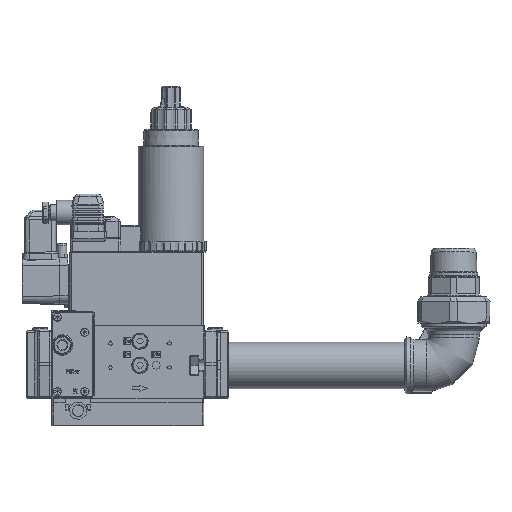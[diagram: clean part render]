
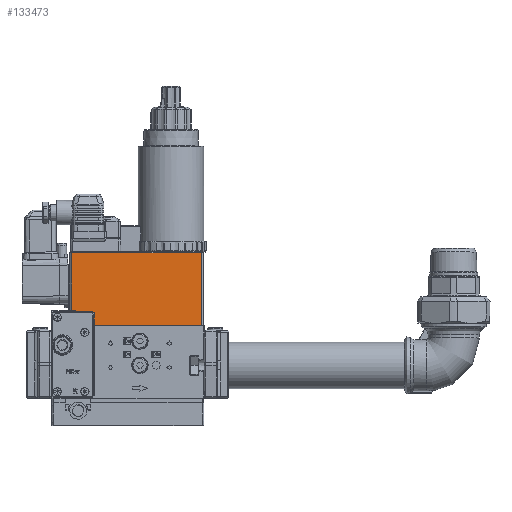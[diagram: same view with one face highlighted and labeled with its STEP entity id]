
A CAD part, top view. The second image highlights one B-rep face of the part: STEP entity #133473.
In plain terms, the highlighted planar face has unit normal (0, 0.009, 1).
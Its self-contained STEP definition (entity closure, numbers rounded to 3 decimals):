
#6720 = DIRECTION ( 'NONE',  ( 1., 0., 0. ) ) ;
#8004 = CARTESIAN_POINT ( 'NONE',  ( -21.322, 6.358, 46.886 ) ) ;
#11049 = B_SPLINE_CURVE_WITH_KNOTS ( 'NONE', 3,
 ( #11094, #48434, #16058, #103198, #93762, #92318 ),
 .UNSPECIFIED., .F., .F.,
 ( 4, 2, 4 ),
 ( 0., 0.001, 0.002 ),
 .UNSPECIFIED. ) ;
#11094 = CARTESIAN_POINT ( 'NONE',  ( -22.322, -51.195, 47.388 ) ) ;
#13156 = AXIS2_PLACEMENT_3D ( 'NONE', #60881, #28580, #105626 ) ;
#16058 = CARTESIAN_POINT ( 'NONE',  ( -21.8, -51.303, 47.389 ) ) ;
#18802 = VERTEX_POINT ( 'NONE', #74482 ) ;
#18943 = EDGE_CURVE ( 'NONE', #117129, #69150, #11049, .T. ) ;
#19848 = VERTEX_POINT ( 'NONE', #68607 ) ;
#20371 = EDGE_LOOP ( 'NONE', ( #110047, #52096, #75278, #55347, #121297, #23995, #58214, #115677, #92547 ) ) ;
#20539 = LINE ( 'NONE', #64398, #95787 ) ;
#23995 = ORIENTED_EDGE ( 'NONE', *, *, #25577, .F. ) ;
#24099 = CARTESIAN_POINT ( 'NONE',  ( -21.322, -64.001, 47.5 ) ) ;
#25577 = EDGE_CURVE ( 'NONE', #124127, #71312, #107524, .T. ) ;
#27150 = FACE_OUTER_BOUND ( 'NONE', #20371, .T. ) ;
#28580 = DIRECTION ( 'NONE',  ( 0., 0.009, 1. ) ) ;
#29712 = CARTESIAN_POINT ( 'NONE',  ( -45.028, -49.801, 47.376 ) ) ;
#35599 = VERTEX_POINT ( 'NONE', #92699 ) ;
#38968 = VECTOR ( 'NONE', #127403, 1000. ) ;
#41114 = CARTESIAN_POINT ( 'NONE',  ( -45.028, -51.195, 47.388 ) ) ;
#41239 = CARTESIAN_POINT ( 'NONE',  ( -38.771, 3.008, 46.915 ) ) ;
#44632 = EDGE_CURVE ( 'NONE', #67195, #35599, #49119, .T. ) ;
#46746 = DIRECTION ( 'NONE',  ( -0.009, 1., -0.009 ) ) ;
#47285 = CARTESIAN_POINT ( 'NONE',  ( 79.337, 3.008, 46.915 ) ) ;
#48386 = VECTOR ( 'NONE', #93003, 1000. ) ;
#48434 = CARTESIAN_POINT ( 'NONE',  ( -22.06, -51.195, 47.388 ) ) ;
#48497 = CARTESIAN_POINT ( 'NONE',  ( -21.322, -52.195, 47.397 ) ) ;
#49022 = VECTOR ( 'NONE', #108082, 1000. ) ;
#49119 = LINE ( 'NONE', #29712, #48386 ) ;
#49449 = EDGE_CURVE ( 'NONE', #69150, #104660, #107351, .T. ) ;
#50139 = PLANE ( 'NONE',  #13156 ) ;
#52096 = ORIENTED_EDGE ( 'NONE', *, *, #18943, .T. ) ;
#52923 = DIRECTION ( 'NONE',  ( 1., 0., 0. ) ) ;
#55347 = ORIENTED_EDGE ( 'NONE', *, *, #132902, .T. ) ;
#58214 = ORIENTED_EDGE ( 'NONE', *, *, #89701, .T. ) ;
#58977 = LINE ( 'NONE', #136056, #67078 ) ;
#60881 = CARTESIAN_POINT ( 'NONE',  ( -45.028, 6.358, 46.886 ) ) ;
#62619 = CARTESIAN_POINT ( 'NONE',  ( -35.136, -51.195, 47.388 ) ) ;
#64314 = DIRECTION ( 'NONE',  ( -0.006, -1., 0.009 ) ) ;
#64398 = CARTESIAN_POINT ( 'NONE',  ( -45.028, -64.001, 47.5 ) ) ;
#67078 = VECTOR ( 'NONE', #46746, 1000. ) ;
#67195 = VERTEX_POINT ( 'NONE', #117378 ) ;
#68607 = CARTESIAN_POINT ( 'NONE',  ( -35.136, -51.195, 47.388 ) ) ;
#69150 = VERTEX_POINT ( 'NONE', #48497 ) ;
#71312 = VERTEX_POINT ( 'NONE', #47285 ) ;
#74482 = CARTESIAN_POINT ( 'NONE',  ( 79.922, -64.001, 47.5 ) ) ;
#75278 = ORIENTED_EDGE ( 'NONE', *, *, #49449, .T. ) ;
#83319 = VECTOR ( 'NONE', #64314, 1000. ) ;
#84900 = CARTESIAN_POINT ( 'NONE',  ( -22.322, -51.195, 47.388 ) ) ;
#84975 = EDGE_CURVE ( 'NONE', #18802, #71312, #58977, .T. ) ;
#86954 = VECTOR ( 'NONE', #6720, 1000. ) ;
#87337 = CARTESIAN_POINT ( 'NONE',  ( -38.771, 3.008, 46.915 ) ) ;
#89701 = EDGE_CURVE ( 'NONE', #124127, #67195, #96735, .T. ) ;
#92318 = CARTESIAN_POINT ( 'NONE',  ( -21.322, -52.195, 47.397 ) ) ;
#92547 = ORIENTED_EDGE ( 'NONE', *, *, #141823, .F. ) ;
#92699 = CARTESIAN_POINT ( 'NONE',  ( -35.148, -49.801, 47.376 ) ) ;
#93003 = DIRECTION ( 'NONE',  ( 1., 0., 0. ) ) ;
#93522 = CARTESIAN_POINT ( 'NONE',  ( -38.771, 3.008, 46.915 ) ) ;
#93762 = CARTESIAN_POINT ( 'NONE',  ( -21.322, -51.933, 47.395 ) ) ;
#95787 = VECTOR ( 'NONE', #52923, 1000. ) ;
#96735 = LINE ( 'NONE', #87337, #83319 ) ;
#97223 = LINE ( 'NONE', #41114, #141886 ) ;
#103198 = CARTESIAN_POINT ( 'NONE',  ( -21.43, -51.673, 47.392 ) ) ;
#104660 = VERTEX_POINT ( 'NONE', #24099 ) ;
#105626 = DIRECTION ( 'NONE',  ( 0., -1., 0.009 ) ) ;
#107351 = LINE ( 'NONE', #8004, #49022 ) ;
#107524 = LINE ( 'NONE', #41239, #86954 ) ;
#108082 = DIRECTION ( 'NONE',  ( 0., -1., 0.009 ) ) ;
#110047 = ORIENTED_EDGE ( 'NONE', *, *, #125053, .T. ) ;
#115677 = ORIENTED_EDGE ( 'NONE', *, *, #44632, .T. ) ;
#117129 = VERTEX_POINT ( 'NONE', #84900 ) ;
#117378 = CARTESIAN_POINT ( 'NONE',  ( -39.078, -49.801, 47.376 ) ) ;
#121297 = ORIENTED_EDGE ( 'NONE', *, *, #84975, .T. ) ;
#124127 = VERTEX_POINT ( 'NONE', #93522 ) ;
#125053 = EDGE_CURVE ( 'NONE', #19848, #117129, #97223, .T. ) ;
#127403 = DIRECTION ( 'NONE',  ( -0.009, 1., -0.009 ) ) ;
#132902 = EDGE_CURVE ( 'NONE', #104660, #18802, #20539, .T. ) ;
#133473 = ADVANCED_FACE ( 'NONE', ( #27150 ), #50139, .T. ) ;
#136056 = CARTESIAN_POINT ( 'NONE',  ( 79.922, -64.001, 47.5 ) ) ;
#139027 = DIRECTION ( 'NONE',  ( 1., 0., 0. ) ) ;
#140401 = LINE ( 'NONE', #62619, #38968 ) ;
#141823 = EDGE_CURVE ( 'NONE', #19848, #35599, #140401, .T. ) ;
#141886 = VECTOR ( 'NONE', #139027, 1000. ) ;
